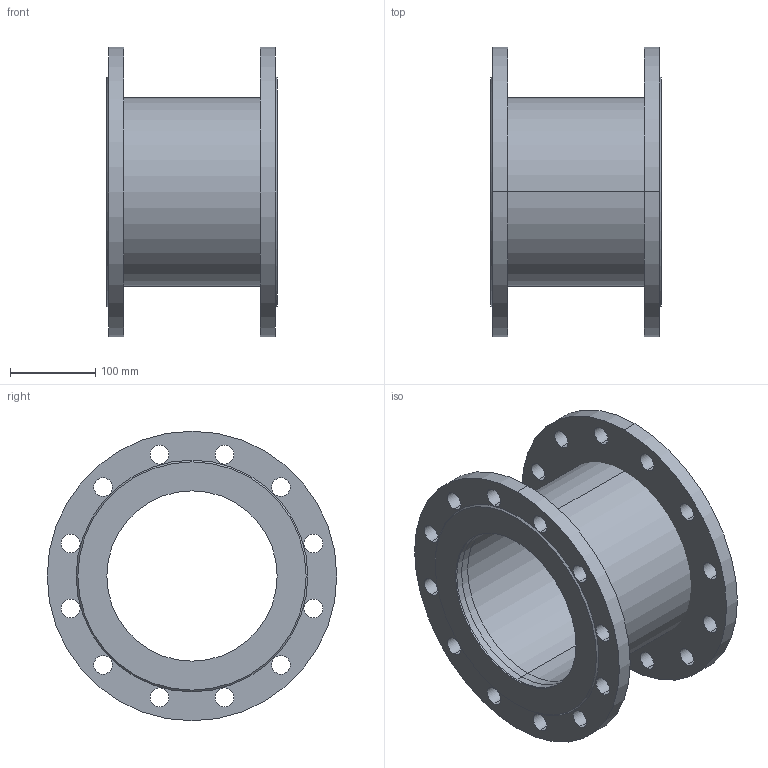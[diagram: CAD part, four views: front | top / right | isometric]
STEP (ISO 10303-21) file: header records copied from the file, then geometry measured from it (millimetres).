
FILE_DESCRIPTION(('STEP AP214'),'1');
FILE_NAME('S:/EK/USER/CAT6/3DHomepage_27-04-2012/VDI-Rohrsysteme_und_Stahlrohre/8500/8500_PN16_DN200_L200.STP','2013-01-21T14:39:42',(' '),(' '),'Spatial InterOp 3D',' ',' ');
FILE_SCHEMA(('automotive_design'));
Length unit declared in the file: millimetre
Products named in the file (5): 3D-Objekt
Bounding box: 200 x 340 x 340 mm (x, y, z)
Volume: 3389179.5 mm3; surface area: 674089.5 mm2
Topology: 5 solids, 5 shells, 78 faces, 204 edges, 136 vertices
Faces by surface type: cylinder 64, plane 10, cone 4
Entity records: 3341 total; most frequent: DIRECTION 506, CARTESIAN_POINT 423, ORIENTED_EDGE 408, AXIS2_PLACEMENT_3D 219, EDGE_CURVE 204, EDGE_LOOP 136, VERTEX_POINT 136, CIRCLE 136
